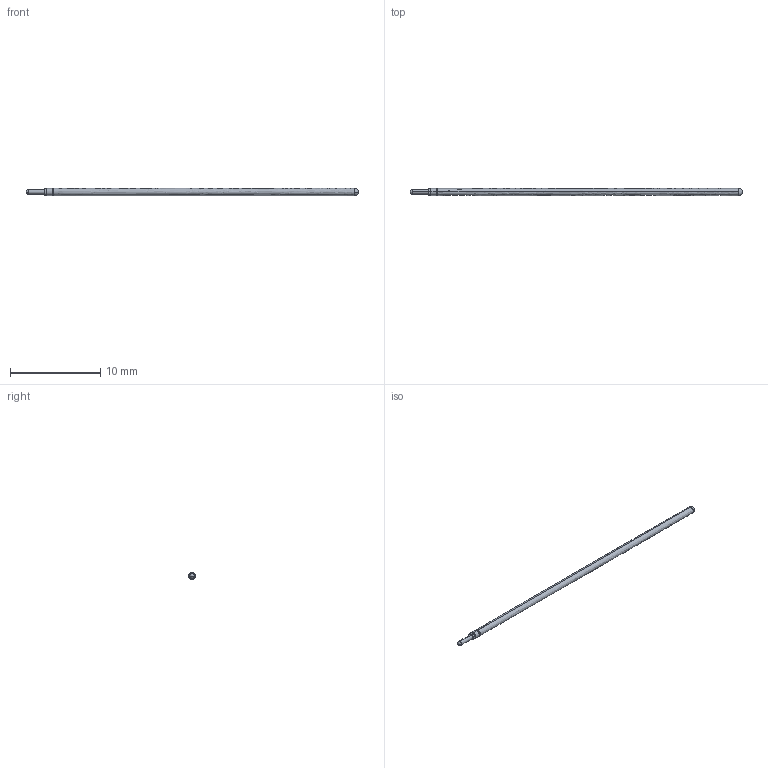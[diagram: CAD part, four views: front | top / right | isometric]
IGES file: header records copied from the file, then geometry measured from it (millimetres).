
Start section: SolidWorks IGES file using analytic representation for surfaces
Global section: file name: L:\probe solid model mockups\Solidworks models\POGO-72J Full.IGS; native system: SolidWorks 2006 by SolidWorks Corporation; preprocessor: SolidWorks 2006 by SolidWorks Corporation; author: Ksnyder; date: 071211.135901; units: inch
Bounding box: 36.83 x 0.79 x 0.79 mm (x, y, z)
Surface area: 172.3 mm2
Topology: 1 solids, 1 shells, 20 faces, 46 edges, 25 vertices
Faces by surface type: revolution 18, plane 2
